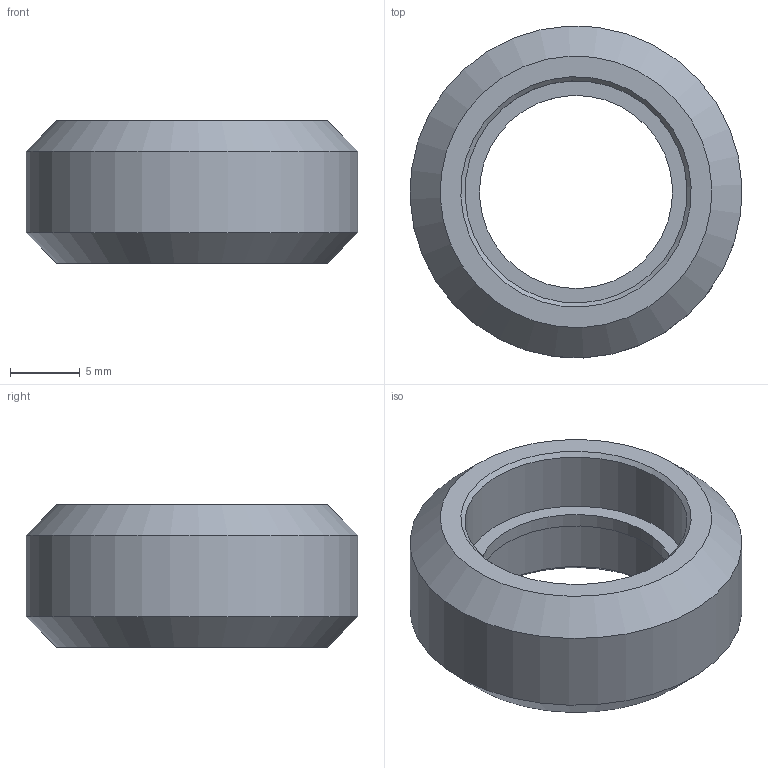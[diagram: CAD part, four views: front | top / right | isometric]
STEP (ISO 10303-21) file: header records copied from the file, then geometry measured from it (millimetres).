
FILE_DESCRIPTION(/* description */ ('STEP AP242 Edition 2','CAx-IF Rec.Pracs.---Representation and Presentation of Product Manufacturing Information (PMI)---4.0---2014-10-13','CAx-IF Rec.Pracs.---3D Tessellated Geometry---0.4---2014-09-14','2;1','CAx-IF Rec.Pracs.---User Defined Attributes---1.5---2016-08-15'),/* implementation_level */ '2;1');
FILE_NAME(/* name */ 'Final Build - Delrin Solid V-Wheel_11',/* time_stamp */ '2026-08-31T23:26:09Z',/* author */ (''),/* organization */ (''),/* preprocessor_version */ 'ST-DEVELOPER v20',/* originating_system */ 'ONSHAPE BY PTC INC, 1.220',/* authorisation */ ' ');
FILE_SCHEMA (('AP242_MANAGED_MODEL_BASED_3D_ENGINEERING_MIM_LF { 1 0 10303 442 3 1 4 }'));
Length unit declared in the file: metre
Products named in the file (1): Delrin Solid V-Wheel_11
Bounding box: 23.87 x 23.87 x 10.23 mm (x, y, z)
Volume: 2246.2 mm3; surface area: 1647.1 mm2
Topology: 1 solids, 1 shells, 12 faces, 21 edges, 13 vertices
Faces by surface type: cone 4, plane 4, cylinder 4
Full cylindrical faces by diameter (mm): 13.89 x1, 15.974 x2, 23.89 x1
Entity records: 270 total; most frequent: DIRECTION 50, CARTESIAN_POINT 37, AXIS2_PLACEMENT_3D 25, ORIENTED_EDGE 24, EDGE_LOOP 24, FACE_BOUND 24, EDGE_CURVE 12, VERTEX_POINT 12
